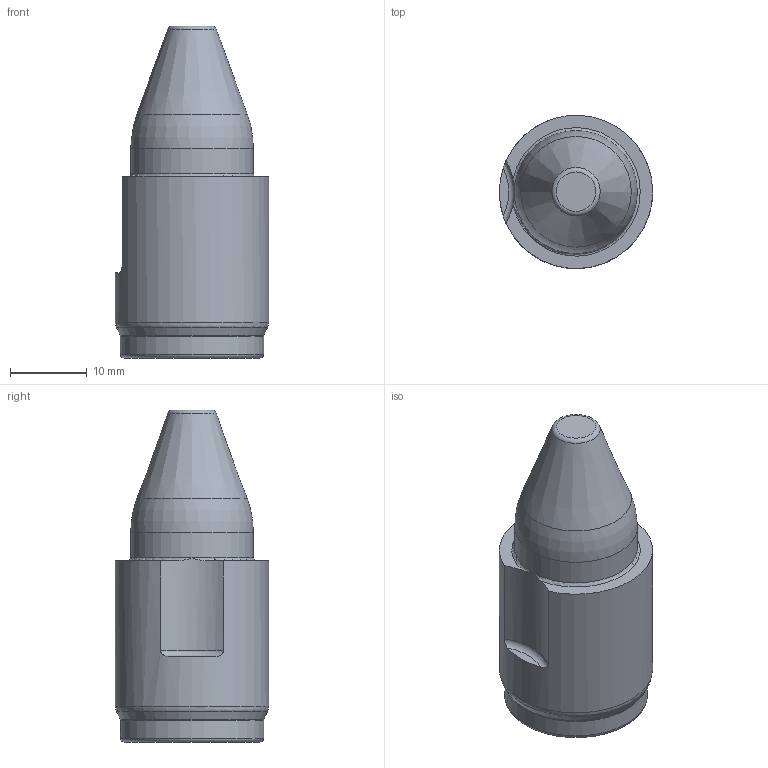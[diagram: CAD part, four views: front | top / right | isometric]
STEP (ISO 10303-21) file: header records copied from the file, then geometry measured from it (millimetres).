
FILE_DESCRIPTION (( 'STEP AP214' ), '1' );
FILE_NAME ('P-16mm-3.2mm-F.STEP', '2023-12-04T13:20:51', ( '' ), ( '' ), 'SwSTEP 2.0', 'SolidWorks 2020', '' );
FILE_SCHEMA (( 'AUTOMOTIVE_DESIGN' ));
Length unit declared in the file: inch
Products named in the file (1): P-16mm-3.2mm-F
Bounding box: 20 x 19.99 x 43.3 mm (x, y, z)
Volume: 9717.1 mm3; surface area: 2669.7 mm2
Topology: 1 solids, 1 shells, 17 faces, 37 edges, 22 vertices
Faces by surface type: torus 7, cylinder 4, plane 4, cone 2
Full cylindrical faces by diameter (mm): 16 x1, 18.669 x1, 20 x1
Entity records: 452 total; most frequent: CARTESIAN_POINT 93, DIRECTION 74, ORIENTED_EDGE 48, AXIS2_PLACEMENT_3D 36, EDGE_LOOP 27, FACE_OUTER_BOUND 25, EDGE_CURVE 24, VERTEX_POINT 19
